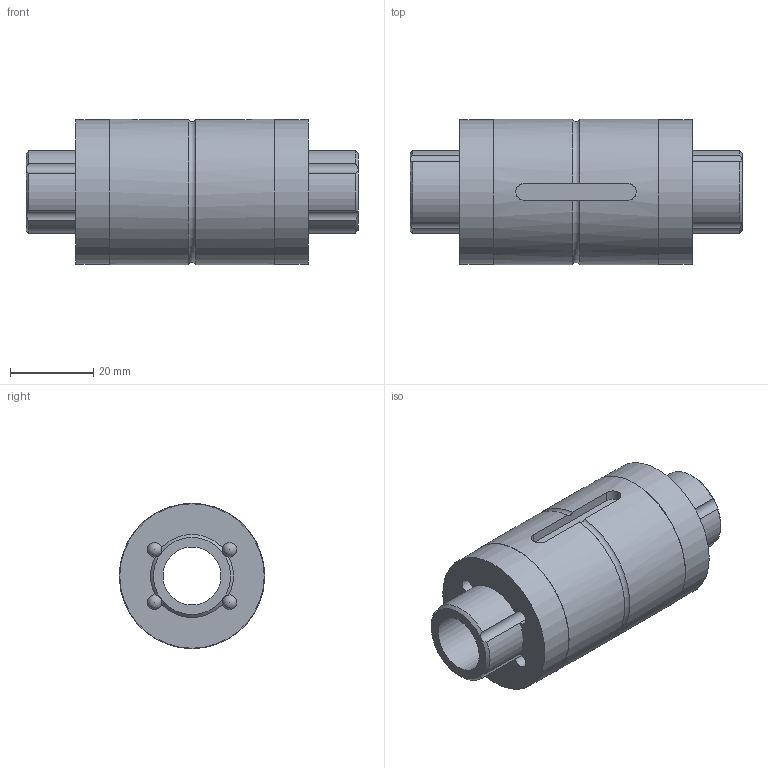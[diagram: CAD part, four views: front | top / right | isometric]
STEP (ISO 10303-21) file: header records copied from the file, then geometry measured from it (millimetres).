
FILE_DESCRIPTION(/* description */ ('Unknown'),/* implementation_level */ '2;1');
FILE_NAME(/* name */ 'TLT020-D1-L80',/* time_stamp */ '2024-12-23T10:14:27+08:00',/* author */ ('Unknown'),/* organization */ ('Unknown'),/* preprocessor_version */ 'ST-DEVELOPER v18.102',/* originating_system */ 'Solid Edge',/* authorisation */ 'Unknown');
FILE_SCHEMA (('AUTOMOTIVE_DESIGN {1 0 10303 214 3 1 1}'));
Length unit declared in the file: millimetre
Products named in the file (3): TLT020-D1-L80; TLT020-D1-xxxx; TLT020
Assembly tree (2 placements, depth 2):
  TLT020-D1-L80
    TLT020-D1-xxxx
    TLT020
Bounding box: 80 x 35 x 35 mm (x, y, z)
Volume: 46648.9 mm3; surface area: 22023.1 mm2
Topology: 2 solids, 2 shells, 63 faces, 286 edges, 188 vertices
Faces by surface type: cylinder 24, sphere 20, plane 9, cone 8, torus 2
Full cylindrical faces by diameter (mm): 2 x1, 14 x1, 34.8 x2, 35 x2
Entity records: 3542 total; most frequent: CARTESIAN_POINT 1412, ORIENTED_EDGE 482, DIRECTION 338, EDGE_CURVE 241, VERTEX_POINT 169, AXIS2_PLACEMENT_3D 136, EDGE_LOOP 128, FACE_BOUND 128
